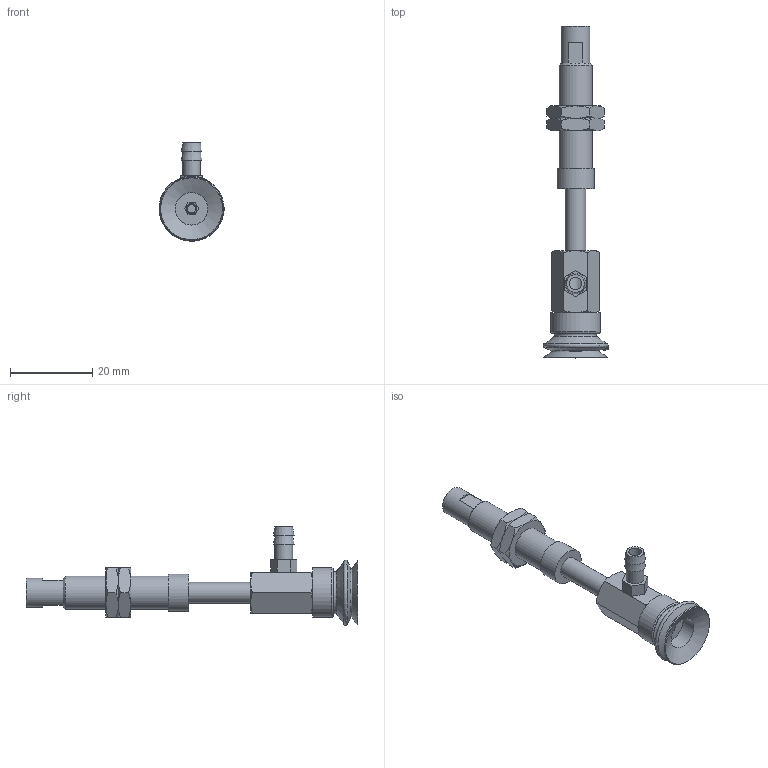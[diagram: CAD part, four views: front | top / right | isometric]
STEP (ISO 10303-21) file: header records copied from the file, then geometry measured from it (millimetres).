
FILE_DESCRIPTION(('STEP AP203'),'1');
FILE_NAME('-T.stp','2025-04-24T01:01:35',(' '),(' '),'Spatial InterOp 3D',' ',' ');
FILE_SCHEMA(('CONFIG_CONTROL_DESIGN'));
Length unit declared in the file: millimetre
Products named in the file (8): BNABPJYS-15-15-※-T; Adapter-15-NAPJ; CONNECTOR_S-15-15; NUT-NAPJ-15-15-s; NAPJTS-15-15-FBODY; NAPJTS-15-15-MBODY; BPJG-15-※; T
Assembly tree (8 placements, depth 2):
  BNABPJYS-15-15-※-T
    Adapter-15-NAPJ
    CONNECTOR_S-15-15
    NUT-NAPJ-15-15-s  x2
    NAPJTS-15-15-FBODY
    NAPJTS-15-15-MBODY
    BPJG-15-※
    T
Bounding box: 15.99 x 80.5 x 23.89 mm (x, y, z)
Volume: 4901.6 mm3; surface area: 6110.7 mm2
Topology: 8 solids, 8 shells, 169 faces, 358 edges, 216 vertices
Faces by surface type: plane 71, cone 58, cylinder 21, torus 9, bspline 6, sphere 4
Full cylindrical faces by diameter (mm): 2 x1, 2.5 x1, 3 x1, 4.134 x3, 4.3 x1, 4.6 x1, 5 x5, 7 x1, 7.188 x2, 7.9 x1, 8 x2, 9 x1, 12 x1
Entity records: 4266 total; most frequent: CARTESIAN_POINT 990, DIRECTION 610, ORIENTED_EDGE 508, AXIS2_PLACEMENT_3D 263, EDGE_CURVE 254, EDGE_LOOP 217, VERTEX_POINT 179, FACE_OUTER_BOUND 173
